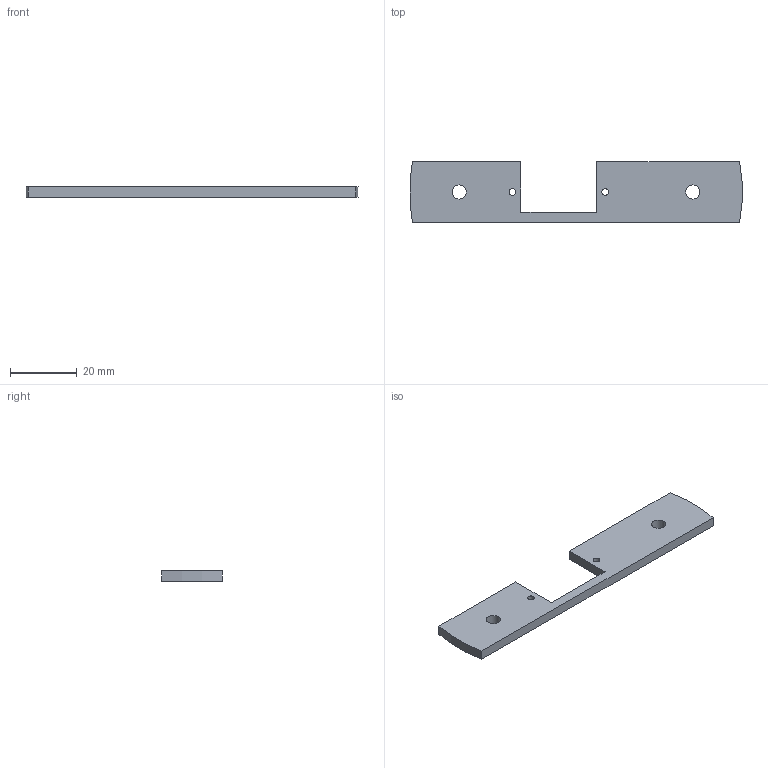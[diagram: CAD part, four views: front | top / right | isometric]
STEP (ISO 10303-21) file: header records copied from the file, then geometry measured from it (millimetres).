
FILE_DESCRIPTION(/* description */ (''),/* implementation_level */ '2;1');
FILE_NAME(/* name */ 'Base Servo Mounting Plate_v2.tmp.step',/* time_stamp */ '2026-11-01T13:09:09+02:00',/* author */ (''),/* organization */ (''),/* preprocessor_version */ 'ST-DEVELOPER v20.2',/* originating_system */ 'Autodesk Translation Framework v15.15.0.0',/* authorisation */ '');
FILE_SCHEMA (('AUTOMOTIVE_DESIGN { 1 0 10303 214 3 1 1 }'));
Length unit declared in the file: millimetre
Products named in the file (1): Base Servo Mounting Plate
Bounding box: 99.41 x 18.2 x 3 mm (x, y, z)
Volume: 4270.8 mm3; surface area: 3752.6 mm2
Topology: 1 solids, 1 shells, 14 faces, 36 edges, 24 vertices
Faces by surface type: plane 8, cylinder 6
Full cylindrical faces by diameter (mm): 2 x2, 4.2 x2
Entity records: 481 total; most frequent: DIRECTION 78, CARTESIAN_POINT 75, ORIENTED_EDGE 72, EDGE_CURVE 36, AXIS2_PLACEMENT_3D 27, LINE 24, VECTOR 24, VERTEX_POINT 24
